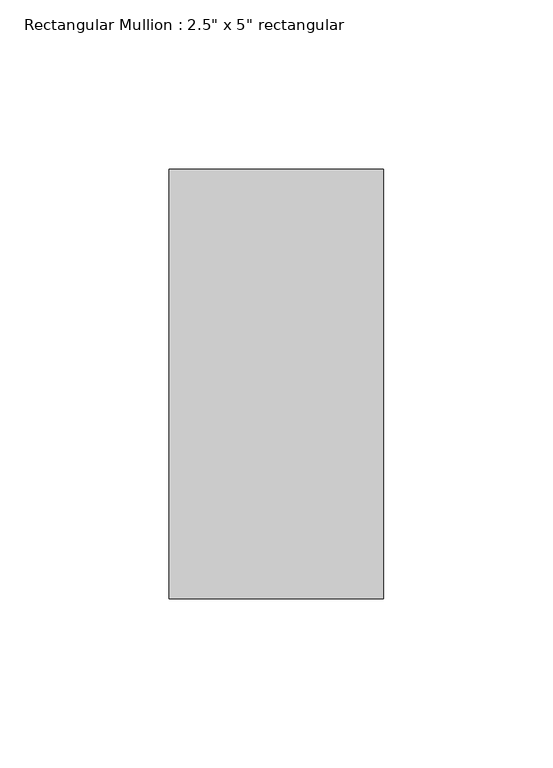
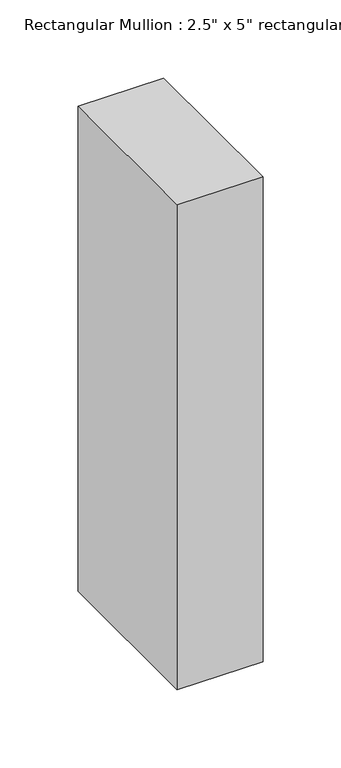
"""IFC4 building model written with IfcOpenShell, lengths in millimetres: member geometry."""

from ifc_helpers import new_model, si_unit, frame, origin, place, context, project, spatial, polyline, outline, extrude, source, transform, mapped, element, save


def member_7b5c996e(model_context):
    return source(origin(), model_context, "Body", "SweptSolid", [
        extrude(outline(polyline([(31.75, 63.5), (31.75, -63.5), (-31.75, -63.5), (-31.75, 63.5), (31.75, 63.5)])), frame((0.0, 0.0, -379.1857143), z_axis=(0.0, 0.0, 1.0), x_axis=(1.0, 0.0, 0.0)), (0.0, 0.0, 1.0), 379.1857143),
    ])


if __name__ == "__main__":
    model = new_model("IFC4")
    model_context = context("Model", 3, world=origin())
    ifc_project = project(units=[si_unit("LENGTHUNIT", "METRE", prefix="MILLI")], contexts=[model_context])
    site = spatial("IfcSite", under=ifc_project)
    building = spatial("IfcBuilding", under=site)
    placement = place(None, origin())
    member_shape = member_7b5c996e(model_context)
    element("IfcMember", 1, ObjectType="Rectangular Mullion : 2.5\" x 5\" rectangular", at=placement, inside=building, context=model_context, shape_type="MappedRepresentation", body=[
        mapped(member_shape, transform((0.0, 0.0, 0.0), x_axis=(1.0, 0.0, 0.0), y_axis=(0.0, 1.0, 0.0), z_axis=(0.0, 0.0, 1.0))),
    ])
    save(model, "model.ifc")
